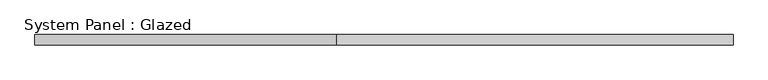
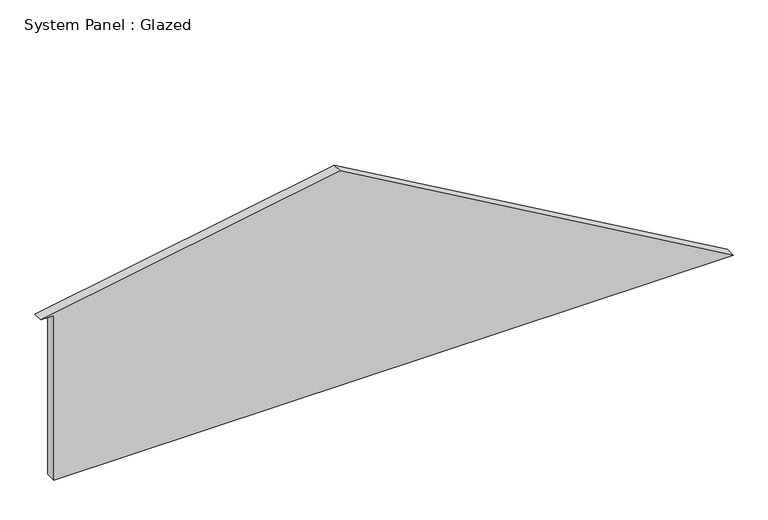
"""IFC4 building model written with IfcOpenShell, lengths in millimetres: plate geometry, System Panel : Glazed."""

from ifc_helpers import new_model, si_unit, frame, origin, place, context, project, spatial, polyline, outline, extrude, source, transform, mapped, element, save


def system_panel_glazed_cde72c19(model_context):
    return source(origin(), model_context, "Body", "SweptSolid", [
        extrude(outline(polyline([(0.0, -819.3496073), (0.0, 851.0996073), (557.7451166, -114.9432724), (427.9408928, -851.0996073), (427.9408928, -819.3496073), (0.0, -819.3496073)])), frame((0.0, -44.45, 0.0), z_axis=(0.0, 1.0, 0.0), x_axis=(0.0, 0.0, 1.0)), (0.0, 0.0, 1.0), 25.4),
    ])


if __name__ == "__main__":
    model = new_model("IFC4")
    model_context = context("Model", 3, world=origin())
    ifc_project = project(units=[si_unit("LENGTHUNIT", "METRE", prefix="MILLI")], contexts=[model_context])
    site = spatial("IfcSite", under=ifc_project)
    building = spatial("IfcBuilding", under=site)
    placement = place(None, origin())
    system_panel_glazed_shape = system_panel_glazed_cde72c19(model_context)
    element("IfcPlate", 1, ObjectType="System Panel : Glazed", at=placement, inside=building, context=model_context, shape_type="MappedRepresentation", body=[
        mapped(system_panel_glazed_shape, transform((0.0, 0.0, 0.0), x_axis=(1.0, 0.0, 0.0), y_axis=(0.0, 1.0, 0.0), z_axis=(0.0, 0.0, 1.0))),
    ])
    save(model, "model.ifc")
